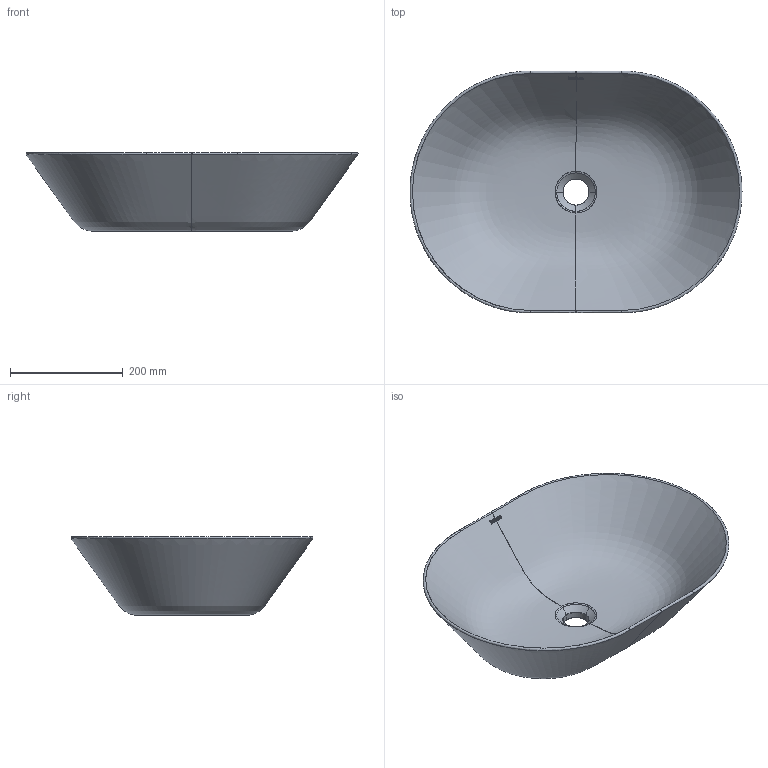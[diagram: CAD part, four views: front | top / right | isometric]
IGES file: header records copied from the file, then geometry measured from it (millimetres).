
Global section: file name: D:\Renovando Conceptos\Trabajos Varios\BathCo\47 Biblioteca Lavabos 3D\4037 N New Toulouse\4037N_New Toulouse.igs; native system: Rhinoceros ( Feb 26 2015 ); preprocessor: Trout Lake IGES 012 Feb 26 2015; date: 201109.063531; units: millimetre
Bounding box: 589.95 x 429.99 x 140 mm (x, y, z)
Surface area: 591723.1 mm2 (no closed solid volume)
Topology: 0 solids, 0 shells, 140 faces, 1251 edges, 1248 vertices
Faces by surface type: bspline 140
